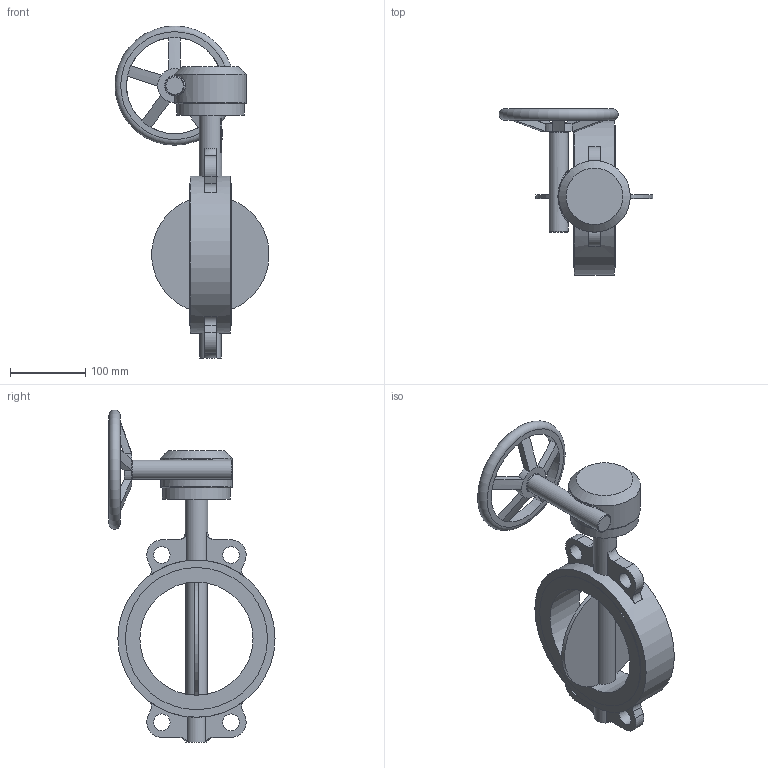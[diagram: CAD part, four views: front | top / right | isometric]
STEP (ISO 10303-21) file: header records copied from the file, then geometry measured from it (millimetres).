
FILE_DESCRIPTION(('STEP AP203'), '1');
FILE_NAME('青蜮铕 017W.Y_DN150_疱潴牝铕', '', ('UNSPECIFIED'), ('UNSPECIFIED'), 'ASCON STEP Converter 1.6', 'ASCON Math Kernel', '');
FILE_SCHEMA(('CONFIG_CONTROL_DESIGN'));
Length unit declared in the file: millimetre
Bounding box: 204.06 x 220.2 x 440 mm (x, y, z)
Volume: 1828474.1 mm3; surface area: 241014.3 mm2
Topology: 1 solids, 1 shells, 140 faces, 353 edges, 222 vertices
Faces by surface type: plane 64, cylinder 47, cone 19, torus 8, bspline 2
Full cylindrical faces by diameter (mm): 8.376 x4, 10 x4, 22 x4, 25 x1, 30 x1, 90 x1, 95 x1, 127.563 x1, 150 x1, 188.4 x2, 208.4 x1
Entity records: 7367 total; most frequent: CARTESIAN_POINT 2952, DIRECTION 690, ORIENTED_EDGE 626, EDGE_CURVE 313, AXIS2_PLACEMENT_3D 284, VERTEX_POINT 218, EDGE_LOOP 205, CIRCLE 145
